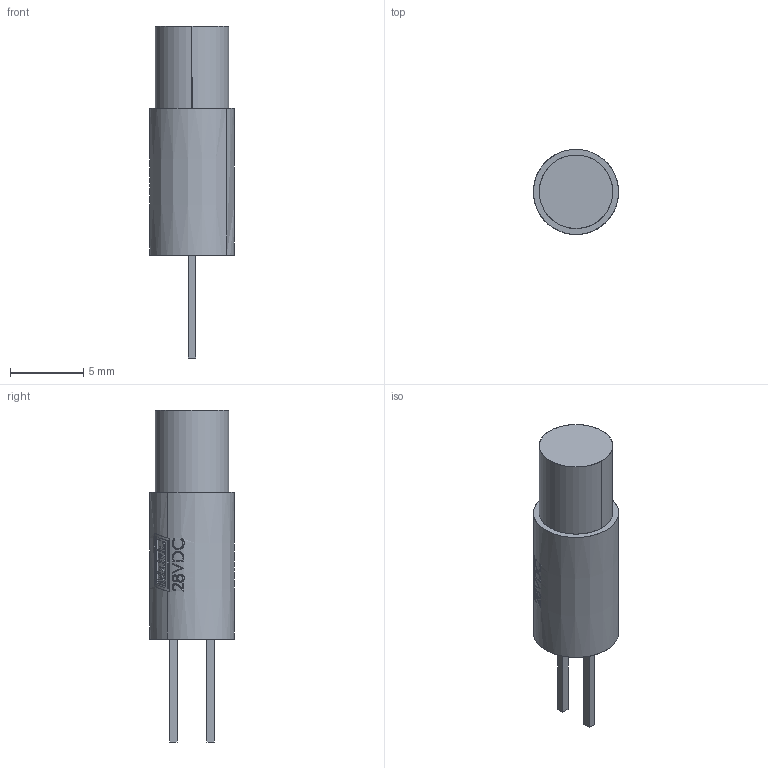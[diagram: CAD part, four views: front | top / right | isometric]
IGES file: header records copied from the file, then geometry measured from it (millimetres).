
Start section: SolidWorks IGES file using analytic representation for surfaces
Global section: file name: G:\Marl\DESIGN\Paul Robson\STEP-IGES FILES\204 Series\204 Series.IGS; native system: SolidWorks 2016; preprocessor: SolidWorks 2016; author: Paulr; date: 160803.090618; units: millimetre
Bounding box: 5.8 x 5.8 x 22.6 mm (x, y, z)
Surface area: 592.1 mm2 (no closed solid volume)
Topology: 0 solids, 0 shells, 221 faces, 1983 edges, 1983 vertices
Faces by surface type: bspline 184, revolution 37
